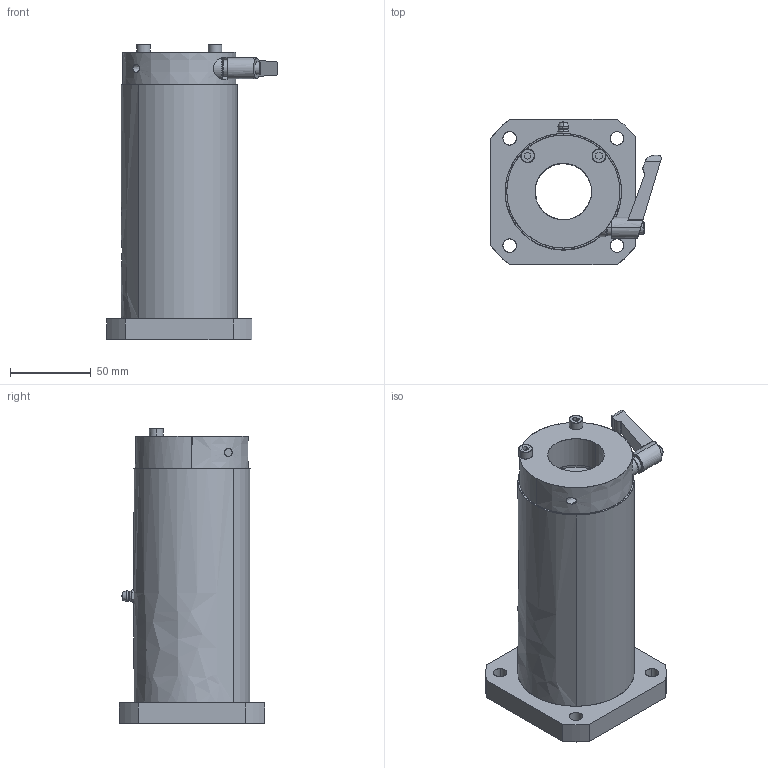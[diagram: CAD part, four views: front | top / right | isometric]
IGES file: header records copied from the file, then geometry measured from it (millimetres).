
Start section: SolidWorks IGES file using analytic representation for surfaces
Global section: file name: C:\Users\yamad\Desktop\IGES\LFWK35-OH-C.IGS; native system: SolidWorks 2019; preprocessor: SolidWorks 2019; author: yamad; date: 230626.171509; units: millimetre
Bounding box: 105.7 x 90 x 183 mm (x, y, z)
Surface area: 98282.5 mm2 (no closed solid volume)
Topology: 0 solids, 0 shells, 233 faces, 5839 edges, 5837 vertices
Faces by surface type: bspline 126, revolution 107
